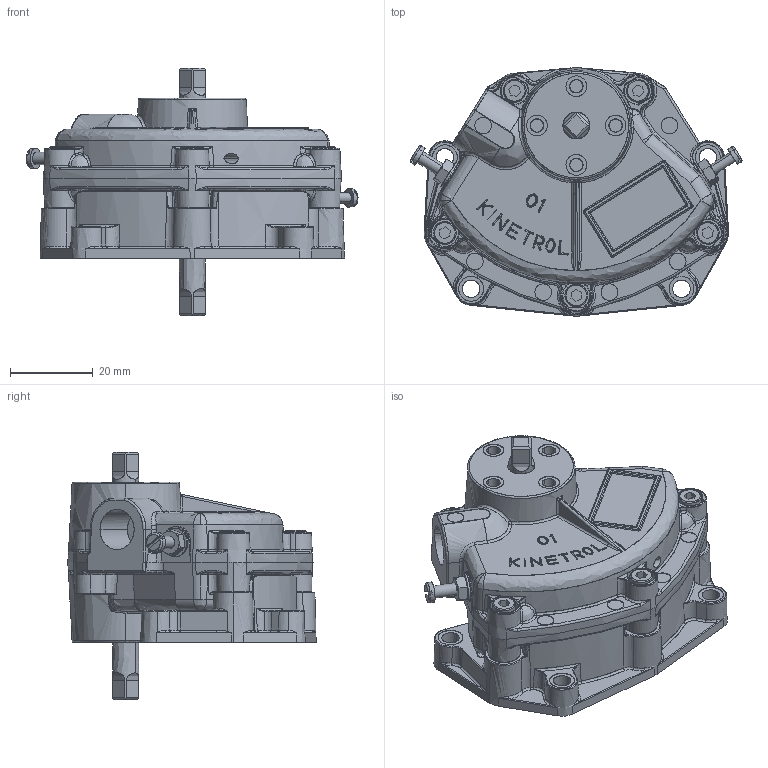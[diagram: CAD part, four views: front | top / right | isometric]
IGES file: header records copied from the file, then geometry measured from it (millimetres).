
Start section: C
Global section: file name: 014P100 (FLANGE) SIMPLE .igs; native system:  By UGS Corp.; preprocessor: XPlus GENERIC/IGES 3.0; author: Author; organization: Title; date: 20120206.165908; units: millimetre
Bounding box: 80.18 x 60 x 59.85 mm (x, y, z)
Surface area: 28218.1 mm2 (no closed solid volume)
Topology: 0 solids, 0 shells, 2584 faces, 12474 edges, 12189 vertices
Faces by surface type: bspline 2584
